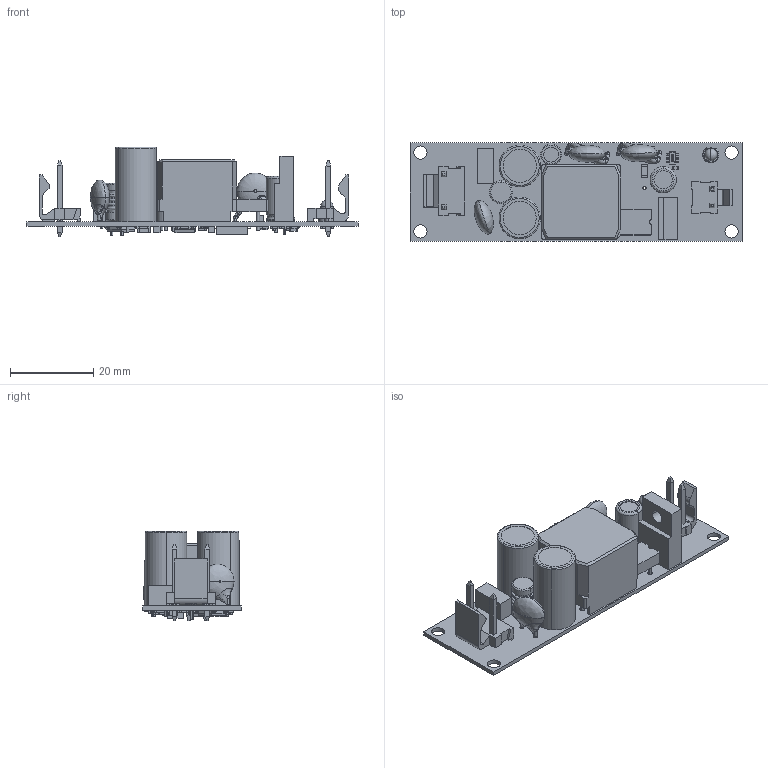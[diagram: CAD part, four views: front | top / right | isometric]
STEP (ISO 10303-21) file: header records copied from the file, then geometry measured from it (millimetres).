
FILE_DESCRIPTION (( 'STEP AP214' ), '1' );
FILE_NAME ('RACM15E-K_OF_3D.stp', '2024-01-25T10:04:26', ( '' ), ( '' ), 'SwSTEP 2.0', 'SolidWorks 2023', '' );
FILE_SCHEMA (( 'AUTOMOTIVE_DESIGN' ));
Length unit declared in the file: millimetre
Products named in the file (1): RACM15E-K_OF_3D
Bounding box: 80 x 23.8 x 21.56 mm (x, y, z)
Volume: 11999 mm3; surface area: 11665.1 mm2
Topology: 133 solids, 133 shells, 2442 faces, 5714 edges, 3585 vertices
Faces by surface type: plane 1480, cylinder 487, bspline 289, torus 82, sphere 78, cone 26
Entity records: 116738 total; most frequent: CARTESIAN_POINT 34560, ORIENTED_EDGE 11304, DIRECTION 10274, EDGE_CURVE 5652, VECTOR 3784, LINE 3784, VERTEX_POINT 3581, AXIS2_PLACEMENT_3D 3245
